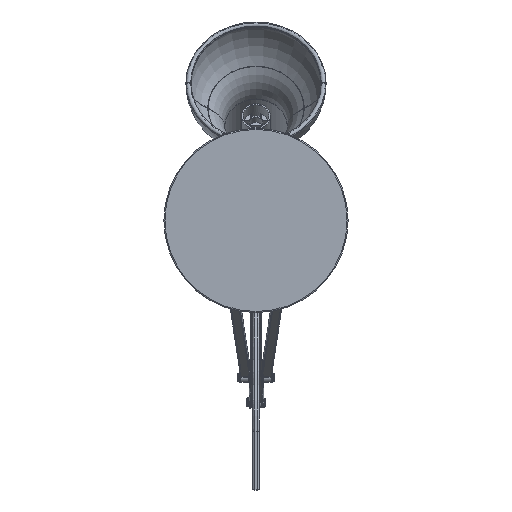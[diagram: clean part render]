
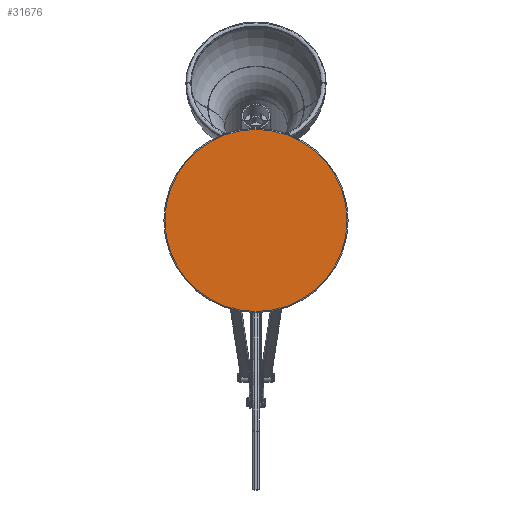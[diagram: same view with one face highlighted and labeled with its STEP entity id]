
A CAD part, front view. The second image highlights one B-rep face of the part: STEP entity #31676.
In plain terms, the highlighted planar face has unit normal (0, -1, 0).
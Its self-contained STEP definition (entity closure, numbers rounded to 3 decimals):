
#4609 = CARTESIAN_POINT ( 'NONE',  ( 0., -22.3, -84.3 ) ) ;
#11738 = CIRCLE ( 'NONE', #61637, 84.3 ) ;
#12113 = EDGE_CURVE ( 'NONE', #31556, #48208, #11738, .T. ) ;
#14760 = ORIENTED_EDGE ( 'NONE', *, *, #12113, .T. ) ;
#19649 = EDGE_LOOP ( 'NONE', ( #14760, #62400 ) ) ;
#29888 = DIRECTION ( 'NONE',  ( 0., -1., 0. ) ) ;
#31556 = VERTEX_POINT ( 'NONE', #4609 ) ;
#31676 = ADVANCED_FACE ( 'NONE', ( #81167 ), #32903, .T. ) ;
#32903 = PLANE ( 'NONE',  #57534 ) ;
#33301 = DIRECTION ( 'NONE',  ( 0., -1., 0. ) ) ;
#36250 = DIRECTION ( 'NONE',  ( 0., -1., 0. ) ) ;
#44000 = EDGE_CURVE ( 'NONE', #48208, #31556, #49894, .T. ) ;
#45977 = AXIS2_PLACEMENT_3D ( 'NONE', #84635, #29888, #93802 ) ;
#48208 = VERTEX_POINT ( 'NONE', #95101 ) ;
#49894 = CIRCLE ( 'NONE', #45977, 84.3 ) ;
#57534 = AXIS2_PLACEMENT_3D ( 'NONE', #88039, #33301, #97214 ) ;
#61637 = AXIS2_PLACEMENT_3D ( 'NONE', #90987, #36250, #100126 ) ;
#62400 = ORIENTED_EDGE ( 'NONE', *, *, #44000, .T. ) ;
#81167 = FACE_OUTER_BOUND ( 'NONE', #19649, .T. ) ;
#84635 = CARTESIAN_POINT ( 'NONE',  ( 0., -22.3, 0. ) ) ;
#88039 = CARTESIAN_POINT ( 'NONE',  ( 0., -22.3, 0. ) ) ;
#90987 = CARTESIAN_POINT ( 'NONE',  ( 0., -22.3, 0. ) ) ;
#93802 = DIRECTION ( 'NONE',  ( 0., 0., -1. ) ) ;
#95101 = CARTESIAN_POINT ( 'NONE',  ( 0., -22.3, 84.3 ) ) ;
#97214 = DIRECTION ( 'NONE',  ( 0., 0., -1. ) ) ;
#100126 = DIRECTION ( 'NONE',  ( 0., 0., -1. ) ) ;
